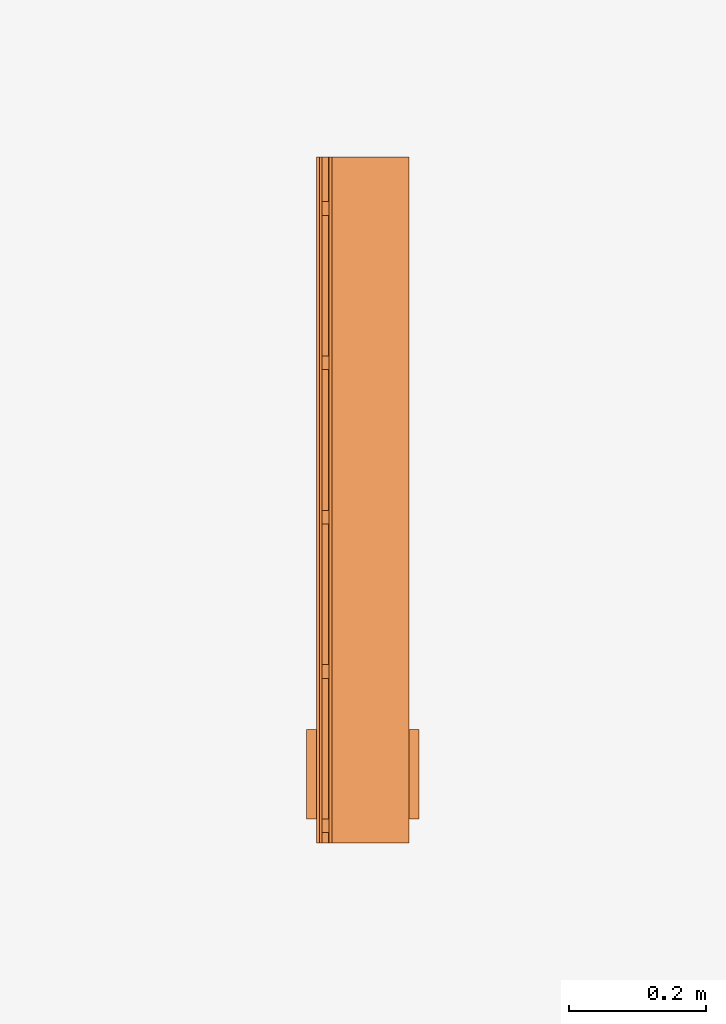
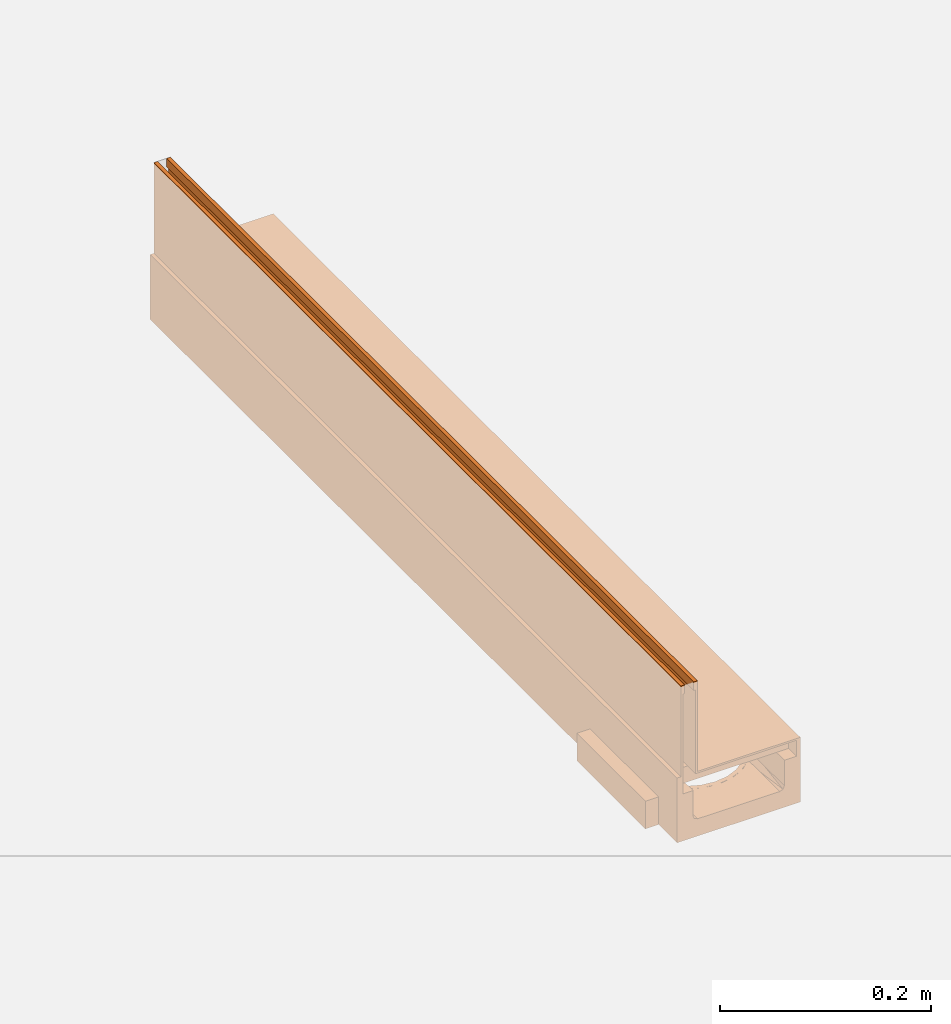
# One storey, part 2 of 2: 1 proxy.
"""IFC2X3 building model written with IfcOpenShell, lengths in millimetres."""

from ifc_helpers import new_model, entity, si_unit, converted_unit, direction, frame, origin, place, context, subcontext, project, spatial, faceted_brep, source, transform, mapped, material, material_list, element, save


model = new_model("IFC2X3")

# Units and contexts
model_context = context("Model", 3, precision=1e-06, world=origin(), true_north=direction((2.0, 6.12303176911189e-17, 1.0)))
context_of_model = context(None, 3, precision=1e-06, world=origin(), true_north=direction((2.0, 6.12303176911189e-17, 1.0)))
body_context = subcontext(model_context, "Body", "Model", "MODEL_VIEW")
ifc_project = project(units=[si_unit("LENGTHUNIT", "METRE", prefix="MILLI"), si_unit("AREAUNIT", "SQUARE_METRE", prefix="MILLI"), si_unit("VOLUMEUNIT", "CUBIC_METRE", prefix="MILLI"), converted_unit("PLANEANGLEUNIT", "DEGREE", entity("IfcRatioMeasure", 0.0174532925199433), si_unit("PLANEANGLEUNIT", "RADIAN"), dimensions=[0, 0, 0, 0, 0, 0, 0]), si_unit("TIMEUNIT", "SECOND")], contexts=[model_context, context_of_model])

# Site, building, storey
site_placement = place(None, origin())
site = spatial("IfcSite", under=ifc_project, at=site_placement, Name="Default", CompositionType="ELEMENT")
building_placement = place(site_placement, origin())
building = spatial("IfcBuilding", under=site, at=building_placement, CompositionType="ELEMENT")
storey_placement = place(building_placement, origin())
storey = spatial("IfcBuildingStorey", under=building, at=storey_placement, Name="Level 1", CompositionType="ELEMENT", Elevation=0.0)

# Proxy
ifc_material_1 = material(Name="Stainless Steel (F)")
ifc_material_2 = material(Name="Plastic, Opaque Black")
ifc_material_3 = material(Name="Vienite® Synthetic Resin Concrete")
ifc_material_list = material_list([ifc_material_1, ifc_material_2, ifc_material_3])
shared_shape = source(origin(), body_context, "Body", "Brep", [
    faceted_brep([(63.2499999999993, 15.0, -107.0), (63.2499999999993, 17.0, -109.0), (63.2499999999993, 33.0, -109.0), (63.2499999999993, 35.0, -107.0), (63.2499999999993, 17.0, -123.499999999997), (63.2499999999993, 15.0, -125.499999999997), (63.2499999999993, 33.0, -123.499999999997), (63.2499999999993, 35.0, -125.499999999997), (-61.2500000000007, 15.0, -125.499999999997), (-61.2500000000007, 17.0, -123.499999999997), (-61.2500000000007, 33.0, -123.499999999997), (-61.2500000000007, 35.0, -125.499999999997), (-61.2500000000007, 17.0, -109.0), (-61.2500000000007, 15.0, -107.0), (-61.2500000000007, 33.0, -109.0), (-61.2500000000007, 35.0, -107.0)], [[[0, 1, 2, 3]], [[4, 1, 0, 5]], [[3, 2, 6, 7]], [[6, 4, 5, 7]], [[8, 9, 10, 11]], [[12, 9, 8, 13]], [[11, 10, 14, 15]], [[14, 12, 13, 15]], [[5, 0, 13, 8]], [[7, 5, 8, 11]], [[3, 7, 11, 15]], [[0, 3, 15, 13]], [[1, 4, 9, 12]], [[14, 2, 1, 12]], [[6, 2, 14, 10]], [[9, 4, 6, 10]]]),
    faceted_brep([(63.2499999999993, 240.0, -107.0), (63.2499999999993, 242.0, -109.0), (63.2499999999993, 258.0, -109.0), (63.2499999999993, 260.0, -107.0), (63.2499999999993, 242.0, -123.499999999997), (63.2499999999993, 240.0, -125.499999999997), (63.2499999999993, 258.0, -123.499999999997), (63.2499999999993, 260.0, -125.499999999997), (-61.2500000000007, 240.0, -125.499999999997), (-61.2500000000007, 242.0, -123.499999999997), (-61.2500000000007, 258.0, -123.499999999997), (-61.2500000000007, 260.0, -125.499999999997), (-61.2500000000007, 242.0, -109.0), (-61.2500000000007, 240.0, -107.0), (-61.2500000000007, 258.0, -109.0), (-61.2500000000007, 260.0, -107.0)], [[[0, 1, 2, 3]], [[4, 1, 0, 5]], [[3, 2, 6, 7]], [[6, 4, 5, 7]], [[8, 9, 10, 11]], [[12, 9, 8, 13]], [[11, 10, 14, 15]], [[14, 12, 13, 15]], [[5, 0, 13, 8]], [[7, 5, 8, 11]], [[3, 7, 11, 15]], [[0, 3, 15, 13]], [[1, 4, 9, 12]], [[2, 1, 12, 14]], [[6, 2, 14, 10]], [[4, 6, 10, 9]]]),
    faceted_brep([(63.2499999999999, 465.0, -107.0), (63.2499999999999, 467.0, -109.0), (63.2499999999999, 483.0, -109.0), (63.2499999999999, 485.0, -107.0), (63.2499999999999, 467.0, -123.499999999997), (63.2499999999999, 465.0, -125.499999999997), (63.2499999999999, 483.0, -123.499999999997), (63.2499999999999, 485.0, -125.499999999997), (-61.2500000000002, 465.0, -125.499999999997), (-61.2500000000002, 467.0, -123.499999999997), (-61.2500000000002, 483.0, -123.499999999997), (-61.2500000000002, 485.0, -125.499999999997), (-61.2500000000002, 467.0, -109.0), (-61.2500000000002, 465.0, -107.0), (-61.2500000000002, 483.0, -109.0), (-61.2500000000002, 485.0, -107.0)], [[[0, 1, 2, 3]], [[4, 1, 0, 5]], [[3, 2, 6, 7]], [[6, 4, 5, 7]], [[8, 9, 10, 11]], [[12, 9, 8, 13]], [[11, 10, 14, 15]], [[14, 12, 13, 15]], [[5, 0, 13, 8]], [[7, 5, 8, 11]], [[3, 7, 11, 15]], [[0, 3, 15, 13]], [[1, 4, 9, 12]], [[2, 1, 12, 14]], [[6, 2, 14, 10]], [[4, 6, 10, 9]]]),
    faceted_brep([(51.9615242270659, 130.0, -160.0), (42.4264068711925, 142.426406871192, -160.0), (47.6313972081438, 127.499999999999, -160.0), (53.1259204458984, 114.235047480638, -160.0), (55.0, 100.0, -160.0), (57.9555495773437, 115.529142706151, -160.0), (60.0, 100.0, -160.0), (53.1259204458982, 85.7649525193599, -160.0), (38.8908729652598, 138.890872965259, -160.0), (0.0, 155.0, -160.0), (14.2350474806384, 153.125920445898, -160.0), (15.5291427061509, 157.955549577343, -160.0), (0.0, 160.0, -160.0), (30.0, 151.961524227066, -160.0), (27.4999999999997, 147.631397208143, -160.0), (57.9555495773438, 84.4708572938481, -160.0), (47.6313972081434, 72.4999999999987, -160.0), (38.8908729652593, 61.1091270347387, -160.0), (42.4264068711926, 57.5735931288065, -160.0), (51.961524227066, 70.0, -160.0), (30.0, 48.038475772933, -160.0), (27.4999999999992, 52.3686027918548, -160.0), (14.2350474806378, 46.8740795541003, -160.0), (0.0, 45.0, -160.0), (15.5291427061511, 42.0444504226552, -160.0), (0.0, 40.0, -160.0), (-14.2350474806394, 46.8740795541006, -160.0), (-14.2350474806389, 153.125920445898, -160.0), (-15.529142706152, 157.955549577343, -160.0), (-27.5000000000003, 147.631397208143, -160.0), (-30.0, 151.961524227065, -160.0), (-38.8908729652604, 138.890872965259, -160.0), (-42.4264068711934, 142.426406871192, -160.0), (-47.6313972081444, 127.499999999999, -160.0), (-51.9615242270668, 130.0, -160.0), (-53.1259204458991, 114.235047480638, -160.0), (-57.9555495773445, 115.52914270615, -160.0), (-55.0, 100.0, -160.0), (-60.0, 100.0, -160.0), (-53.1259204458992, 85.7649525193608, -160.0), (-42.426406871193, 57.5735931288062, -160.0), (-30.0, 48.0384757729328, -160.0), (-27.5000000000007, 52.3686027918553, -160.0), (-38.8908729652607, 61.1091270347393, -160.0), (-15.5291427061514, 42.0444504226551, -160.0), (-57.9555495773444, 84.4708572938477, -160.0), (-47.6313972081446, 72.4999999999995, -160.0), (-51.9615242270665, 70.0, -160.0), (-51.9615242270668, 130.0, -180.0), (-42.4264068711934, 142.426406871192, -180.0), (-47.6313972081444, 127.499999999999, -180.0), (-53.1259204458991, 114.235047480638, -180.0), (-55.0, 100.0, -180.0), (-57.9555495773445, 115.52914270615, -180.0), (-60.0, 100.0, -180.0), (-53.1259204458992, 85.7649525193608, -180.0), (-38.8908729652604, 138.890872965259, -180.0), (0.0, 155.0, -180.0), (-14.2350474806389, 153.125920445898, -180.0), (-15.529142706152, 157.955549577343, -180.0), (0.0, 160.0, -180.0), (-30.0, 151.961524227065, -180.0), (-27.5000000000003, 147.631397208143, -180.0), (-57.9555495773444, 84.4708572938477, -180.0), (-47.6313972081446, 72.4999999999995, -180.0), (-38.8908729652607, 61.1091270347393, -180.0), (-42.426406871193, 57.5735931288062, -180.0), (-51.9615242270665, 70.0, -180.0), (-30.0, 48.0384757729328, -180.0), (-27.5000000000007, 52.3686027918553, -180.0), (-14.2350474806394, 46.8740795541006, -180.0), (0.0, 45.0, -180.0), (-15.5291427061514, 42.0444504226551, -180.0), (0.0, 40.0, -180.0), (14.2350474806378, 46.8740795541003, -180.0), (14.2350474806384, 153.125920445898, -180.0), (15.5291427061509, 157.955549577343, -180.0), (27.4999999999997, 147.631397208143, -180.0), (30.0, 151.961524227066, -180.0), (38.8908729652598, 138.890872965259, -180.0), (42.4264068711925, 142.426406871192, -180.0), (47.6313972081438, 127.499999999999, -180.0), (51.9615242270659, 130.0, -180.0), (53.1259204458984, 114.235047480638, -180.0), (57.9555495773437, 115.529142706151, -180.0), (55.0, 100.0, -180.0), (60.0, 100.0, -180.0), (53.1259204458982, 85.7649525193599, -180.0), (42.4264068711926, 57.5735931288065, -180.0), (30.0, 48.038475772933, -180.0), (27.4999999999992, 52.3686027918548, -180.0), (38.8908729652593, 61.1091270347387, -180.0), (15.5291427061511, 42.0444504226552, -180.0), (57.9555495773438, 84.4708572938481, -180.0), (47.6313972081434, 72.4999999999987, -180.0), (51.961524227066, 70.0, -180.0)], [[[0, 1, 2, 3]], [[3, 4, 5, 0]], [[6, 5, 4, 7]], [[2, 1, 8]], [[9, 10, 11, 12]], [[13, 11, 10, 14]], [[13, 14, 8, 1]], [[15, 6, 7, 16]], [[17, 18, 19, 16]], [[16, 19, 15]], [[20, 18, 21, 22]], [[21, 18, 17]], [[22, 23, 24, 20]], [[25, 24, 23, 26]], [[27, 12, 28, 29]], [[30, 31, 29, 28]], [[31, 30, 32, 33]], [[33, 32, 34, 35]], [[36, 37, 35, 34]], [[37, 36, 38, 39]], [[40, 41, 42, 43]], [[42, 41, 44]], [[44, 25, 26, 42]], [[39, 38, 45, 46]], [[47, 40, 43, 46]], [[47, 46, 45]], [[27, 9, 12]], [[48, 49, 50, 51]], [[51, 52, 53, 48]], [[54, 53, 52, 55]], [[50, 49, 56]], [[57, 58, 59, 60]], [[61, 59, 58, 62]], [[61, 62, 56, 49]], [[63, 54, 55, 64]], [[65, 66, 67, 64]], [[64, 67, 63]], [[68, 66, 69, 70]], [[69, 66, 65]], [[70, 71, 72, 68]], [[73, 72, 71, 74]], [[75, 60, 76, 77]], [[78, 79, 77, 76]], [[79, 78, 80, 81]], [[81, 80, 82, 83]], [[84, 85, 83, 82]], [[85, 84, 86, 87]], [[88, 89, 90, 91]], [[90, 89, 92]], [[92, 73, 74, 90]], [[87, 86, 93, 94]], [[95, 88, 91, 94]], [[95, 94, 93]], [[75, 57, 60]], [[25, 44, 72, 73]], [[44, 41, 68, 72]], [[40, 47, 67, 66]], [[41, 40, 66, 68]], [[47, 45, 63, 67]], [[54, 63, 45, 38]], [[38, 36, 53, 54]], [[36, 34, 48, 53]], [[32, 30, 61, 49]], [[34, 32, 49, 48]], [[30, 28, 59, 61]], [[60, 59, 28, 12]], [[12, 11, 76, 60]], [[11, 13, 78, 76]], [[1, 0, 82, 80]], [[13, 1, 80, 78]], [[0, 5, 84, 82]], [[86, 84, 5, 6]], [[6, 15, 93, 86]], [[15, 19, 95, 93]], [[18, 20, 89, 88]], [[19, 18, 88, 95]], [[20, 24, 92, 89]], [[73, 92, 24, 25]], [[3, 83, 85, 4]], [[2, 81, 83, 3]], [[14, 77, 79, 8]], [[8, 79, 81, 2]], [[10, 75, 77, 14]], [[75, 10, 9, 57]], [[27, 58, 57, 9]], [[29, 62, 58, 27]], [[33, 50, 56, 31]], [[31, 56, 62, 29]], [[35, 51, 50, 33]], [[51, 35, 37, 52]], [[39, 55, 52, 37]], [[46, 64, 55, 39]], [[42, 69, 65, 43]], [[43, 65, 64, 46]], [[26, 70, 69, 42]], [[70, 26, 23, 71]], [[22, 74, 71, 23]], [[21, 90, 74, 22]], [[16, 94, 91, 17]], [[17, 91, 90, 21]], [[7, 87, 94, 16]], [[87, 7, 4, 85]]]),
    faceted_brep([(-67.5, 35.0, -180.0), (-82.0, 35.0, -180.0), (-82.0, 165.0, -180.0), (-67.5, 165.0, -180.0), (-67.5, 165.0, -148.0), (-82.0, 165.0, -148.0), (-82.0, 35.0, -148.0), (-67.5, 35.0, -148.0)], [[[0, 1, 2, 3]], [[4, 5, 6, 7]], [[5, 2, 1, 6]], [[4, 3, 2, 5]], [[7, 0, 3, 4]], [[6, 1, 0, 7]]]),
    faceted_brep([(82.0, 35.0, -148.0), (82.0, 165.0, -148.0), (67.4999999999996, 165.0, -148.0), (67.4999999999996, 35.0, -148.0), (82.0, 165.0, -180.0), (82.0, 35.0, -180.0), (67.4999999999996, 35.0, -180.0), (67.4999999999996, 165.0, -180.0)], [[[0, 1, 2, 3]], [[4, 5, 6, 7]], [[3, 6, 5, 0]], [[7, 6, 3, 2]], [[1, 4, 7, 2]], [[5, 4, 1, 0]]]),
    faceted_brep([(-47.2500000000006, 0.0, -10.0), (-47.2500000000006, 0.0, -107.0), (-45.2500000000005, 0.0, -105.0), (-45.2500000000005, 0.0, 0.0), (-49.2500000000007, 0.0, 0.0), (-49.2500000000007, 0.0, -10.0), (63.2499999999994, 0.0, -107.0), (63.2499999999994, 0.0, -105.0), (-45.2500000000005, 1000.0, -105.0), (63.2499999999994, 1000.0, -105.0), (63.2499999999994, 1000.0, -107.0), (-47.2500000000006, 1000.0, -107.0), (-47.2500000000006, 1000.0, -10.0), (-45.2500000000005, 1000.0, 0.0), (-49.2500000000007, 1000.0, -10.0), (-49.2500000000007, 1000.0, 0.0)], [[[0, 1, 2, 3]], [[4, 5, 0, 3]], [[6, 7, 2, 1]], [[8, 9, 10, 11]], [[12, 13, 8, 11]], [[12, 14, 15, 13]], [[0, 5, 14, 12]], [[11, 1, 0, 12]], [[6, 1, 11, 10]], [[9, 7, 6, 10]], [[8, 2, 7, 9]], [[3, 2, 8, 13]], [[15, 4, 3, 13]], [[5, 4, 15, 14]]]),
    faceted_brep([(-59.2500000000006, 1000.0, 0.0), (-59.2500000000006, 1000.0, -10.0), (-61.2500000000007, 1000.0, -10.0), (-63.2500000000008, 1000.0, 0.0), (-63.2500000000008, 1000.0, -125.499999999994), (-61.2500000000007, 1000.0, -125.499999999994), (-61.2500000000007, 0.0, -10.0), (-63.2500000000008, 0.0, 0.0), (-63.2500000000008, 0.0, -125.499999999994), (-61.2500000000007, 0.0, -125.499999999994), (-59.2500000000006, 0.0, 0.0), (-59.2500000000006, 0.0, -10.0)], [[[0, 1, 2, 3]], [[4, 3, 2, 5]], [[6, 7, 8, 9]], [[10, 7, 6, 11]], [[9, 8, 4, 5]], [[6, 9, 5, 2]], [[11, 6, 2, 1]], [[10, 11, 1, 0]], [[3, 7, 10, 0]], [[4, 8, 7, 3]]]),
    faceted_brep([(63.2499999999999, 690.0, -107.0), (63.2499999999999, 692.0, -109.0), (63.2499999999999, 708.0, -109.0), (63.2499999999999, 710.0, -107.0), (63.2499999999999, 692.0, -123.499999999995), (63.2499999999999, 690.0, -125.499999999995), (63.2499999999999, 708.0, -123.499999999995), (63.2499999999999, 710.0, -125.499999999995), (-61.2500000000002, 690.0, -125.499999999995), (-61.2500000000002, 692.0, -123.499999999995), (-61.2500000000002, 708.0, -123.499999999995), (-61.2500000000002, 710.0, -125.499999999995), (-61.2500000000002, 692.0, -109.0), (-61.2500000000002, 690.0, -107.0), (-61.2500000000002, 708.0, -109.0), (-61.2500000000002, 710.0, -107.0)], [[[0, 1, 2, 3]], [[4, 1, 0, 5]], [[3, 2, 6, 7]], [[6, 4, 5, 7]], [[8, 9, 10, 11]], [[12, 9, 8, 13]], [[11, 10, 14, 15]], [[14, 12, 13, 15]], [[5, 0, 13, 8]], [[11, 7, 5, 8]], [[3, 7, 11, 15]], [[13, 0, 3, 15]], [[1, 4, 9, 12]], [[2, 1, 12, 14]], [[6, 2, 14, 10]], [[4, 6, 10, 9]]]),
    faceted_brep([(63.2500000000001, 915.0, -107.0), (63.2500000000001, 917.0, -109.0), (63.2500000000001, 933.0, -109.0), (63.2500000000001, 935.0, -107.0), (63.2500000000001, 917.0, -123.499999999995), (63.2500000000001, 915.0, -125.499999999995), (63.2500000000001, 933.0, -123.499999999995), (63.2500000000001, 935.0, -125.499999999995), (-61.2499999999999, 915.0, -125.499999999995), (-61.2499999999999, 917.0, -123.499999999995), (-61.2499999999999, 933.0, -123.499999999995), (-61.2499999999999, 935.0, -125.499999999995), (-61.2499999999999, 917.0, -109.0), (-61.2499999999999, 915.0, -107.0), (-61.2499999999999, 933.0, -109.0), (-61.2499999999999, 935.0, -107.0)], [[[0, 1, 2, 3]], [[4, 1, 0, 5]], [[3, 2, 6, 7]], [[6, 4, 5, 7]], [[8, 9, 10, 11]], [[12, 9, 8, 13]], [[11, 10, 14, 15]], [[14, 12, 13, 15]], [[5, 0, 13, 8]], [[11, 7, 5, 8]], [[3, 7, 11, 15]], [[13, 0, 3, 15]], [[1, 4, 9, 12]], [[2, 1, 12, 14]], [[6, 2, 14, 10]], [[4, 6, 10, 9]]]),
    faceted_brep([(34.1631531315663, 149.269097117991, -160.0), (45.0, 139.631143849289, -160.0), (45.0, 193.404139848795, -160.0), (45.0, 247.17728920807, -160.0), (-34.1631531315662, 149.269097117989, -160.0), (-21.3303487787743, 156.025318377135, -160.0), (-45.0, 1000.0, -160.0), (-45.0, 960.9615556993, -160.0), (21.3303487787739, 156.025318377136, -160.0), (45.0, 1000.0, -160.0), (7.25133424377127, 159.505080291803, -160.0), (-7.25133424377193, 159.505080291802, -160.0), (-58.265578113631, 114.26696924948, -160.0), (-53.1651104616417, 127.756221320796, -160.0), (-45.0, 139.631143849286, -160.0), (-60.0, 99.9448741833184, -160.0), (-53.1651104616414, 72.1335270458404, -160.0), (-58.2655781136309, 85.6227791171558, -160.0), (-45.0, 60.258604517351, -160.0), (-45.0, 99.9448741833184, -160.0), (67.4999999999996, 0.0, -105.0), (63.2499999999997, 0.0, -105.0), (63.2499999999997, 0.0, -125.500000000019), (67.5, 0.0, -180.0), (50.0, 0.0, -125.50000000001), (50.0, 0.0, -155.0), (48.5355339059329, 0.0, -158.535533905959), (45.0, 0.0, -160.0), (-45.0, 0.0, -160.0), (-67.5, 0.0, -180.0), (-50.0, 0.0, -125.500000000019), (-63.2499999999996, 0.0, -125.500000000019), (-50.0, 0.0, -155.0), (-63.2499999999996, 0.0, -105.0), (-67.5, 0.0, -105.0), (-48.5355339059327, 0.0, -158.53553390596), (-67.5, 1000.0, -105.0), (-63.2499999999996, 1000.0, -105.0), (-63.2499999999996, 1000.0, -125.500000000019), (-67.5, 1000.0, -180.0), (-50.0, 1000.0, -125.500000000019), (-50.0, 1000.0, -155.0), (-48.5355339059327, 1000.0, -158.53553390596), (67.5, 1000.0, -180.0), (50.0, 1000.0, -125.50000000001), (63.2499999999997, 1000.0, -125.500000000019), (50.0, 1000.0, -155.0), (63.2499999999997, 1000.0, -105.0), (67.4999999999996, 1000.0, -105.0), (48.5355339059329, 1000.0, -158.535533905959), (50.0, 960.961555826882, -155.0), (50.0, 937.499994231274, -155.0), (45.0, 60.2586045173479, -160.0), (45.0, 39.0384425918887, -160.0), (50.0, 39.0384441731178, -155.0), (50.0, 62.5000057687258, -155.0), (45.0, 99.9448741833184, -160.0), (50.0, 93.7500086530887, -155.0), (50.0, 124.999996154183, -155.0), (45.0, 960.961503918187, -160.0), (45.0, 569.815571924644, -160.0), (45.0, 516.042422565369, -160.0), (50.0, 531.249987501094, -155.0), (50.0, 562.499990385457, -155.0), (50.0, 218.749989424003, -155.0), (50.0, 187.49998653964, -155.0), (45.0, 408.496430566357, -160.0), (50.0, 375.000003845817, -155.0), (50.0, 406.25000673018, -155.0), (50.0, 437.500009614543, -155.0), (50.0, 249.999992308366, -155.0), (50.0, 281.249995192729, -155.0), (50.0, 812.50001346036, -155.0), (45.0, 838.680858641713, -160.0), (45.0, 784.907862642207, -160.0), (50.0, 781.250010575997, -155.0), (45.0, 354.723281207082, -160.0), (50.0, 312.499998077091, -155.0), (50.0, 343.750000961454, -155.0), (45.0, 926.707679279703, -160.0), (50.0, 906.249991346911, -155.0), (45.0, 462.269426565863, -160.0), (50.0, 468.750012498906, -155.0), (50.0, 500.0, -155.0), (45.0, 677.361717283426, -160.0), (50.0, 687.500001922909, -155.0), (50.0, 718.750004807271, -155.0), (45.0, 623.58872128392, -160.0), (50.0, 593.74999326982, -155.0), (50.0, 624.999996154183, -155.0), (50.0, 656.249999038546, -155.0), (45.0, 892.453854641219, -160.0), (50.0, 875.000003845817, -155.0), (50.0, 750.000007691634, -155.0), (45.0, 731.134713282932, -160.0), (50.0, 843.750016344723, -155.0), (50.0, 156.249983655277, -155.0), (45.0, 300.950285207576, -160.0), (45.0, 435.382851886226, -160.0), (21.3303487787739, 43.8644299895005, -160.0), (7.25133424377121, 40.3846680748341, -160.0), (34.1631531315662, 50.620651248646, -160.0), (-7.25133424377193, 40.3846680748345, -160.0), (-21.3303487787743, 43.8644299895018, -160.0), (-34.1631531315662, 50.6206512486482, -160.0), (-45.0, 39.0384425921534, -160.0), (-50.0, 906.250002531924, -155.0), (-50.0, 874.999997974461, -155.0), (-45.0, 892.453890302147, -160.0), (-45.0, 926.707723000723, -160.0), (-50.0, 125.000002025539, -155.0), (-50.0, 156.250006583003, -155.0), (-45.0, 193.40419441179, -160.0), (-50.0, 187.499994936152, -155.0), (-50.0, 39.0384625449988, -155.0), (-50.0, 62.5000091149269, -155.0), (-50.0, 843.750009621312, -155.0), (-45.0, 838.68083545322, -160.0), (-50.0, 406.250010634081, -155.0), (-50.0, 375.000006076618, -155.0), (-45.0, 408.496413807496, -160.0), (-50.0, 437.49999898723, -155.0), (-50.0, 750.000012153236, -155.0), (-45.0, 731.134734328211, -160.0), (-45.0, 784.907784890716, -160.0), (-50.0, 781.250000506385, -155.0), (-45.0, 354.72335895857, -160.0), (-50.0, 343.750001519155, -155.0), (-50.0, 312.500013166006, -155.0), (-45.0, 247.177249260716, -160.0), (-50.0, 250.000004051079, -155.0), (-50.0, 218.749999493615, -155.0), (-50.0, 562.500017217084, -155.0), (-50.0, 531.250012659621, -155.0), (-45.0, 569.815569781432, -160.0), (-50.0, 593.750005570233, -155.0), (-50.0, 500.000008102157, -155.0), (-50.0, 468.750003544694, -155.0), (-45.0, 462.269464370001, -160.0), (-45.0, 516.042514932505, -160.0), (-45.0, 300.950304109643, -160.0), (-50.0, 281.250008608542, -155.0), (-45.0, 623.588624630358, -160.0), (-50.0, 625.000010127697, -155.0), (-50.0, 93.7499974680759, -155.0), (-50.0, 937.500007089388, -155.0), (-50.0, 718.750007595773, -155.0), (-45.0, 677.361679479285, -160.0), (-50.0, 656.25001468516, -155.0), (-50.0, 812.500005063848, -155.0), (-50.0, 960.961553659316, -155.0), (-50.0, 687.500003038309, -155.0), (-15.5291427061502, 41.9893246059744, -180.0), (0.0, 39.9448741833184, -180.0), (-30.0, 47.9833499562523, -180.0), (-57.9555495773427, 84.4157314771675, -180.0), (-51.961524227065, 69.9448741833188, -180.0), (-42.4264068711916, 57.5184673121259, -180.0), (-60.0, 99.9448741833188, -180.0), (15.5291427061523, 41.9893246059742, -180.0), (30.0, 47.9833499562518, -180.0), (42.426406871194, 57.5184673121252, -180.0), (51.9615242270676, 69.944874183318, -180.0), (57.9555495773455, 84.4157314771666, -180.0), (60.0, 99.9448741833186, -180.0), (-57.9555495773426, 115.47401688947, -180.0), (-51.9615242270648, 129.944874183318, -180.0), (-42.4264068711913, 142.371281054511, -180.0), (-30.0, 151.906398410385, -180.0), (-15.5291427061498, 157.900423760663, -180.0), (0.0, 159.944874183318, -180.0), (51.9615242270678, 129.944874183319, -180.0), (42.4264068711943, 142.371281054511, -180.0), (57.9555495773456, 115.47401688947, -180.0), (15.5291427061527, 157.900423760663, -180.0), (30.0, 151.906398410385, -180.0), (53.1652982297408, 127.755862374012, -160.0), (58.265564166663, 114.267025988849, -160.0), (60.0, 99.9448741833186, -160.0), (53.1652982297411, 72.1338859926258, -160.0), (58.2655641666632, 85.6227223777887, -160.0)], [[[0, 1, 2, 3]], [[4, 5, 6, 7]], [[8, 9, 10]], [[9, 8, 0]], [[6, 11, 10, 9]], [[11, 6, 5]], [[12, 13, 14, 15]], [[16, 17, 15, 18]], [[15, 14, 19, 18]], [[20, 21, 22, 23]], [[22, 24, 25]], [[25, 26, 23, 22]], [[26, 27, 23]], [[23, 27, 28, 29]], [[30, 31, 32]], [[31, 33, 34, 29]], [[28, 35, 29]], [[29, 35, 32, 31]], [[36, 37, 38, 39]], [[38, 40, 41]], [[41, 42, 39, 38]], [[42, 6, 39]], [[39, 6, 9, 43]], [[44, 45, 46]], [[45, 47, 48, 43]], [[9, 49, 43]], [[43, 49, 46, 45]], [[21, 20, 48, 47]], [[45, 22, 21, 47]], [[44, 24, 22, 45]], [[25, 24, 44]], [[44, 46, 50, 51]], [[52, 53, 54, 55]], [[56, 57, 58, 1]], [[49, 9, 59]], [[60, 61, 62, 63]], [[50, 46, 49]], [[64, 3, 2, 65]], [[66, 67, 68, 69]], [[70, 71, 3, 64]], [[72, 73, 74, 75]], [[76, 77, 78, 67]], [[51, 79, 80]], [[81, 82, 83, 61]], [[84, 85, 86]], [[87, 88, 89, 90]], [[88, 87, 60, 63]], [[84, 87, 90, 85]], [[91, 92, 80, 79]], [[86, 93, 94, 84]], [[73, 95, 92, 91]], [[50, 49, 59]], [[51, 50, 59, 79]], [[96, 65, 2, 1]], [[53, 27, 26]], [[26, 25, 54]], [[54, 53, 26]], [[97, 3, 71, 77]], [[76, 97, 77]], [[93, 75, 74, 94]], [[69, 81, 98, 66]], [[57, 56, 52, 55]], [[1, 58, 96]], [[82, 81, 69]], [[73, 72, 95]], [[61, 83, 62]], [[76, 67, 66]], [[27, 99, 100]], [[101, 99, 27, 53]], [[100, 102, 28, 27]], [[28, 102, 103]], [[104, 18, 105, 28]], [[103, 104, 28]], [[106, 107, 108, 109]], [[110, 19, 14, 111]], [[7, 6, 42]], [[112, 113, 111, 14]], [[35, 105, 114]], [[114, 105, 18, 115]], [[107, 116, 117, 108]], [[118, 119, 120, 121]], [[122, 123, 124, 125]], [[126, 119, 127, 128]], [[129, 130, 131, 112]], [[132, 133, 134, 135]], [[136, 137, 138, 139]], [[129, 140, 141, 130]], [[133, 136, 139, 134]], [[142, 143, 135, 134]], [[18, 19, 144, 115]], [[145, 106, 109, 7]], [[146, 147, 123, 122]], [[142, 147, 148, 143]], [[124, 117, 149, 125]], [[145, 7, 150]], [[41, 150, 42]], [[42, 150, 7]], [[114, 32, 35]], [[35, 28, 105]], [[140, 126, 128, 141]], [[121, 120, 138, 137]], [[126, 120, 119]], [[151, 148, 147, 146]], [[131, 113, 112]], [[116, 149, 117]], [[19, 110, 144]], [[40, 30, 32, 114]], [[31, 30, 40, 38]], [[37, 33, 31, 38]], [[36, 34, 33, 37]], [[29, 34, 36, 39]], [[29, 152, 153, 23]], [[152, 29, 154]], [[155, 156, 29]], [[157, 154, 29]], [[156, 157, 29]], [[29, 158, 155]], [[23, 159, 160]], [[159, 23, 153]], [[23, 160, 161]], [[161, 162, 23]], [[163, 164, 23]], [[162, 163, 23]], [[23, 164, 43]], [[165, 158, 39]], [[166, 165, 39]], [[167, 39, 168]], [[39, 167, 166]], [[169, 168, 39]], [[170, 169, 39, 43]], [[158, 29, 39]], [[171, 172, 43]], [[173, 171, 43]], [[174, 170, 43]], [[175, 43, 172]], [[43, 175, 174]], [[173, 43, 164]], [[48, 20, 23, 43]], [[176, 177, 178, 179]], [[1, 176, 179]], [[179, 178, 180]], [[179, 52, 56, 1]], [[15, 158, 12]], [[12, 165, 13]], [[4, 14, 167]], [[166, 14, 13]], [[5, 4, 168]], [[165, 166, 13]], [[12, 158, 165]], [[170, 11, 169]], [[5, 168, 169]], [[168, 4, 167]], [[14, 166, 167]], [[5, 169, 11]], [[10, 174, 8]], [[8, 175, 0]], [[176, 1, 171]], [[173, 177, 176]], [[172, 1, 0]], [[177, 164, 178]], [[174, 175, 8]], [[10, 170, 174]], [[176, 171, 173]], [[171, 1, 172]], [[0, 175, 172]], [[177, 173, 164]], [[11, 170, 10]], [[178, 164, 180]], [[180, 163, 179]], [[101, 52, 161]], [[162, 52, 179]], [[99, 101, 160]], [[163, 162, 179]], [[180, 164, 163]], [[153, 100, 159]], [[99, 160, 159]], [[160, 101, 161]], [[52, 162, 161]], [[99, 159, 100]], [[102, 152, 103]], [[103, 154, 104]], [[16, 18, 156]], [[155, 17, 16]], [[157, 18, 104]], [[17, 158, 15]], [[152, 154, 103]], [[102, 153, 152]], [[16, 156, 155]], [[156, 18, 157]], [[104, 154, 157]], [[17, 155, 158]], [[100, 153, 102]], [[0, 3, 97, 76]], [[0, 76, 66, 98]], [[0, 98, 81, 61]], [[0, 61, 60, 87]], [[0, 87, 84, 94]], [[0, 94, 74, 73]], [[0, 73, 91, 79]], [[0, 79, 59, 9]], [[4, 7, 109, 108]], [[4, 108, 117, 124]], [[4, 124, 123, 147]], [[4, 147, 142, 134]], [[4, 134, 139, 138]], [[4, 138, 120, 126]], [[4, 126, 140, 129]], [[4, 129, 112, 14]], [[44, 51, 80, 92]], [[44, 92, 95, 72]], [[44, 72, 75, 93]], [[44, 93, 86, 85]], [[44, 85, 90, 89]], [[44, 89, 88, 63]], [[44, 63, 62, 83]], [[44, 83, 82, 69]], [[44, 69, 68, 67]], [[44, 67, 78, 77]], [[44, 77, 71, 70]], [[44, 70, 64, 65]], [[44, 65, 96, 58]], [[44, 58, 57, 55]], [[44, 55, 54, 25]], [[101, 53, 52]], [[40, 114, 115, 144]], [[40, 144, 110, 111]], [[40, 111, 113, 131]], [[40, 131, 130, 141]], [[40, 141, 128, 127]], [[40, 127, 119, 118]], [[40, 118, 121, 137]], [[40, 137, 136, 133]], [[40, 133, 132, 135]], [[40, 135, 143, 148]], [[40, 148, 151, 146]], [[40, 146, 122, 125]], [[40, 125, 149, 116]], [[40, 116, 107, 106]], [[40, 106, 145, 150]], [[40, 150, 41]]]),
])
proxy_placement = place(storey_placement, frame((0.0, -230.0, 0.0)))
element("IfcBuildingElementProxy", 1, at=proxy_placement, inside=storey, material=ifc_material_list, Name="Civil-Drainage-Channel-ACO-MultiDrain-M100DS-Brickslot-Channel-System:24076 - No 075V Constant Depth Outlet Channel - 1000mm LG – Invert Depth 55mm:24076 - No 075V Constant Depth Outlet Channel - 1000mm LG – Invert Depth 55mm", ObjectType="24076 - No 075V Constant Depth Outlet Channel - 1000mm LG – Invert Depth 55mm", CompositionType="ELEMENT", context=body_context, shape_type="MappedRepresentation", body=[
    mapped(shared_shape, transform((0.0, 0.0, 0.0), scale=1.0)),
])

save(model, "model.ifc")
